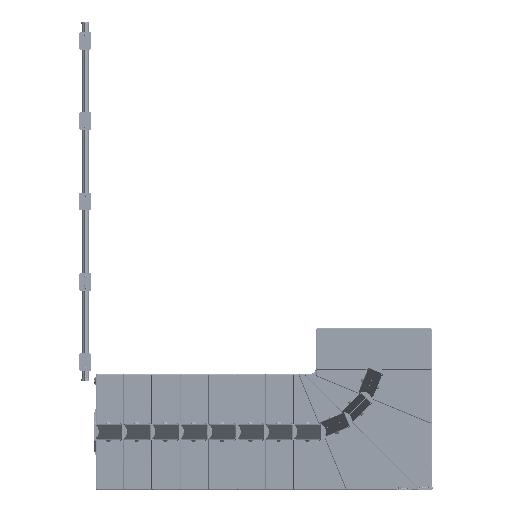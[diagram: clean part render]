
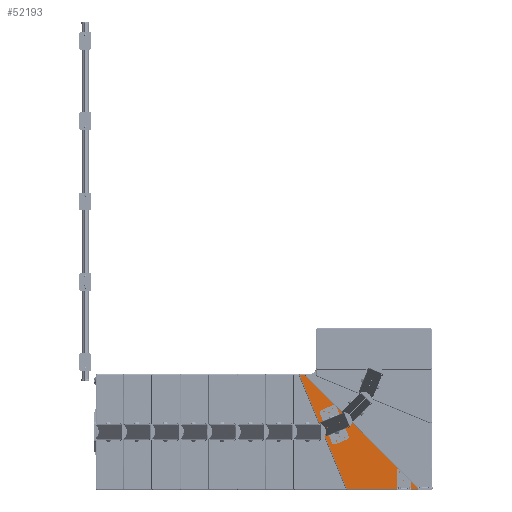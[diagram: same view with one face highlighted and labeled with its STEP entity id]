
A CAD part, front view. The second image highlights one B-rep face of the part: STEP entity #52193.
In plain terms, the highlighted planar face has unit normal (0, -1, 0) as drawn and (0, 1, 0) by its records, which use the part's own axes.
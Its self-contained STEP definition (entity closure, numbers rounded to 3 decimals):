
#569 = LINE ( 'NONE', #36390, #36835 ) ;
#2544 = DIRECTION ( 'NONE',  ( 0., -1., 0. ) ) ;
#3071 = VECTOR ( 'NONE', #38430, 1000. ) ;
#3148 = ORIENTED_EDGE ( 'NONE', *, *, #32031, .T. ) ;
#3306 = AXIS2_PLACEMENT_3D ( 'NONE', #12182, #56385, #42648 ) ;
#3723 = ORIENTED_EDGE ( 'NONE', *, *, #59539, .T. ) ;
#5178 = DIRECTION ( 'NONE',  ( 0.383, 0., 0.924 ) ) ;
#5704 = DIRECTION ( 'NONE',  ( 0.924, 0., 0.383 ) ) ;
#8485 = CARTESIAN_POINT ( 'NONE',  ( -442., 19., -535.137 ) ) ;
#9422 = CARTESIAN_POINT ( 'NONE',  ( -10., 19., 325.71 ) ) ;
#9840 = DIRECTION ( 'NONE',  ( 0., 0., 1. ) ) ;
#9915 = VERTEX_POINT ( 'NONE', #14285 ) ;
#12178 = CARTESIAN_POINT ( 'NONE',  ( -5., 19., 325.71 ) ) ;
#12182 = CARTESIAN_POINT ( 'NONE',  ( -442., 19., -535.137 ) ) ;
#13192 = VERTEX_POINT ( 'NONE', #71010 ) ;
#13447 = CARTESIAN_POINT ( 'NONE',  ( -101.046, 19., 287.998 ) ) ;
#13627 = LINE ( 'NONE', #19318, #3071 ) ;
#14285 = CARTESIAN_POINT ( 'NONE',  ( -8.087, 19., -360.816 ) ) ;
#14673 = CIRCLE ( 'NONE', #22418, 50. ) ;
#15344 = DIRECTION ( 'NONE',  ( 0., 0., 1. ) ) ;
#15524 = DIRECTION ( 'NONE',  ( 0., 1., 0. ) ) ;
#16133 = EDGE_CURVE ( 'NONE', #31750, #50309, #47073, .T. ) ;
#16493 = CARTESIAN_POINT ( 'NONE',  ( -446.619, 19., -533.223 ) ) ;
#17114 = VERTEX_POINT ( 'NONE', #55849 ) ;
#17244 = CIRCLE ( 'NONE', #58757, 5. ) ;
#17374 = CARTESIAN_POINT ( 'NONE',  ( -5., 19., 38.584 ) ) ;
#18493 = EDGE_CURVE ( 'NONE', #46994, #13192, #13627, .T. ) ;
#18509 = CIRCLE ( 'NONE', #21110, 5. ) ;
#19318 = CARTESIAN_POINT ( 'NONE',  ( -5., 19., -356.197 ) ) ;
#19986 = ORIENTED_EDGE ( 'NONE', *, *, #16133, .T. ) ;
#20877 = EDGE_LOOP ( 'NONE', ( #31029, #42962, #29441, #3723, #3148, #45254, #62360, #76088, #25952, #41514, #62457, #19986 ) ) ;
#21110 = AXIS2_PLACEMENT_3D ( 'NONE', #8485, #56380, #63741 ) ;
#21438 = DIRECTION ( 'NONE',  ( 0., 1., 0. ) ) ;
#21553 = CARTESIAN_POINT ( 'NONE',  ( -10., 19., 330.71 ) ) ;
#21607 = CARTESIAN_POINT ( 'NONE',  ( -10., 19., -356.197 ) ) ;
#21912 = CARTESIAN_POINT ( 'NONE',  ( -5., 19., -356.197 ) ) ;
#22418 = AXIS2_PLACEMENT_3D ( 'NONE', #58200, #2544, #64725 ) ;
#22871 = VERTEX_POINT ( 'NONE', #16493 ) ;
#23764 = CARTESIAN_POINT ( 'NONE',  ( -105.666, 19., 289.911 ) ) ;
#24243 = EDGE_CURVE ( 'NONE', #67934, #75501, #74350, .T. ) ;
#25952 = ORIENTED_EDGE ( 'NONE', *, *, #24243, .T. ) ;
#26900 = VERTEX_POINT ( 'NONE', #21553 ) ;
#26907 = DIRECTION ( 'NONE',  ( 0., 0., 1. ) ) ;
#28121 = EDGE_CURVE ( 'NONE', #22871, #57832, #36082, .T. ) ;
#28142 = CIRCLE ( 'NONE', #37219, 5. ) ;
#29297 = DIRECTION ( 'NONE',  ( 0., 0., 1. ) ) ;
#29441 = ORIENTED_EDGE ( 'NONE', *, *, #69432, .T. ) ;
#30780 = CARTESIAN_POINT ( 'NONE',  ( -105.666, 19., 289.911 ) ) ;
#31029 = ORIENTED_EDGE ( 'NONE', *, *, #47899, .T. ) ;
#31689 = PLANE ( 'NONE',  #3306 ) ;
#31750 = VERTEX_POINT ( 'NONE', #12178 ) ;
#32031 = EDGE_CURVE ( 'NONE', #17114, #65108, #18509, .T. ) ;
#32272 = VECTOR ( 'NONE', #5704, 1000. ) ;
#33778 = CIRCLE ( 'NONE', #46623, 5. ) ;
#34221 = DIRECTION ( 'NONE',  ( 0., 1., 0. ) ) ;
#35418 = CARTESIAN_POINT ( 'NONE',  ( -442., 19., -535.137 ) ) ;
#35744 = CARTESIAN_POINT ( 'NONE',  ( -102.96, 19., 292.617 ) ) ;
#36082 = LINE ( 'NONE', #30780, #70191 ) ;
#36390 = CARTESIAN_POINT ( 'NONE',  ( -440.087, 19., -539.756 ) ) ;
#36835 = VECTOR ( 'NONE', #73338, 1000. ) ;
#37219 = AXIS2_PLACEMENT_3D ( 'NONE', #9422, #70006, #26907 ) ;
#38430 = DIRECTION ( 'NONE',  ( 0., 0., -1. ) ) ;
#41020 = DIRECTION ( 'NONE',  ( 0., 0., -1. ) ) ;
#41514 = ORIENTED_EDGE ( 'NONE', *, *, #76847, .T. ) ;
#42014 = CARTESIAN_POINT ( 'NONE',  ( -11.913, 19., 330.33 ) ) ;
#42648 = DIRECTION ( 'NONE',  ( 0., 0., 1. ) ) ;
#42962 = ORIENTED_EDGE ( 'NONE', *, *, #18493, .T. ) ;
#43449 = FACE_OUTER_BOUND ( 'NONE', #20877, .T. ) ;
#44662 = CIRCLE ( 'NONE', #51119, 5. ) ;
#45104 = EDGE_CURVE ( 'NONE', #65108, #22871, #57181, .T. ) ;
#45254 = ORIENTED_EDGE ( 'NONE', *, *, #45104, .T. ) ;
#46623 = AXIS2_PLACEMENT_3D ( 'NONE', #21607, #15524, #9840 ) ;
#46994 = VERTEX_POINT ( 'NONE', #49844 ) ;
#47073 = LINE ( 'NONE', #21912, #47771 ) ;
#47771 = VECTOR ( 'NONE', #41020, 1000. ) ;
#47899 = EDGE_CURVE ( 'NONE', #50309, #46994, #14673, .T. ) ;
#49844 = CARTESIAN_POINT ( 'NONE',  ( -5., 19., -38.584 ) ) ;
#50309 = VERTEX_POINT ( 'NONE', #17374 ) ;
#51119 = AXIS2_PLACEMENT_3D ( 'NONE', #58390, #21438, #15344 ) ;
#52193 = ADVANCED_FACE ( 'NONE', ( #43449 ), #31689, .T. ) ;
#52329 = CARTESIAN_POINT ( 'NONE',  ( -442., 19., -540.137 ) ) ;
#55849 = CARTESIAN_POINT ( 'NONE',  ( -440.087, 19., -539.756 ) ) ;
#56380 = DIRECTION ( 'NONE',  ( 0., 1., 0. ) ) ;
#56385 = DIRECTION ( 'NONE',  ( 0., 1., 0. ) ) ;
#57181 = CIRCLE ( 'NONE', #64997, 5. ) ;
#57648 = EDGE_CURVE ( 'NONE', #57832, #67934, #17244, .T. ) ;
#57832 = VERTEX_POINT ( 'NONE', #23764 ) ;
#58200 = CARTESIAN_POINT ( 'NONE',  ( 26.8, 19., 0. ) ) ;
#58390 = CARTESIAN_POINT ( 'NONE',  ( -10., 19., 325.71 ) ) ;
#58757 = AXIS2_PLACEMENT_3D ( 'NONE', #13447, #79796, #67242 ) ;
#59539 = EDGE_CURVE ( 'NONE', #9915, #17114, #569, .T. ) ;
#62360 = ORIENTED_EDGE ( 'NONE', *, *, #28121, .T. ) ;
#62457 = ORIENTED_EDGE ( 'NONE', *, *, #64653, .T. ) ;
#62553 = CARTESIAN_POINT ( 'NONE',  ( -11.913, 19., 330.33 ) ) ;
#63741 = DIRECTION ( 'NONE',  ( 0., 0., 1. ) ) ;
#64653 = EDGE_CURVE ( 'NONE', #26900, #31750, #28142, .T. ) ;
#64725 = DIRECTION ( 'NONE',  ( 0., 0., -1. ) ) ;
#64997 = AXIS2_PLACEMENT_3D ( 'NONE', #35418, #34221, #29297 ) ;
#65108 = VERTEX_POINT ( 'NONE', #52329 ) ;
#67242 = DIRECTION ( 'NONE',  ( 0., 0., 1. ) ) ;
#67934 = VERTEX_POINT ( 'NONE', #35744 ) ;
#69432 = EDGE_CURVE ( 'NONE', #13192, #9915, #33778, .T. ) ;
#70006 = DIRECTION ( 'NONE',  ( 0., 1., 0. ) ) ;
#70191 = VECTOR ( 'NONE', #5178, 1000. ) ;
#71010 = CARTESIAN_POINT ( 'NONE',  ( -5., 19., -356.197 ) ) ;
#73338 = DIRECTION ( 'NONE',  ( -0.924, 0., -0.383 ) ) ;
#74350 = LINE ( 'NONE', #62553, #32272 ) ;
#75501 = VERTEX_POINT ( 'NONE', #42014 ) ;
#76088 = ORIENTED_EDGE ( 'NONE', *, *, #57648, .T. ) ;
#76847 = EDGE_CURVE ( 'NONE', #75501, #26900, #44662, .T. ) ;
#79796 = DIRECTION ( 'NONE',  ( 0., 1., 0. ) ) ;
